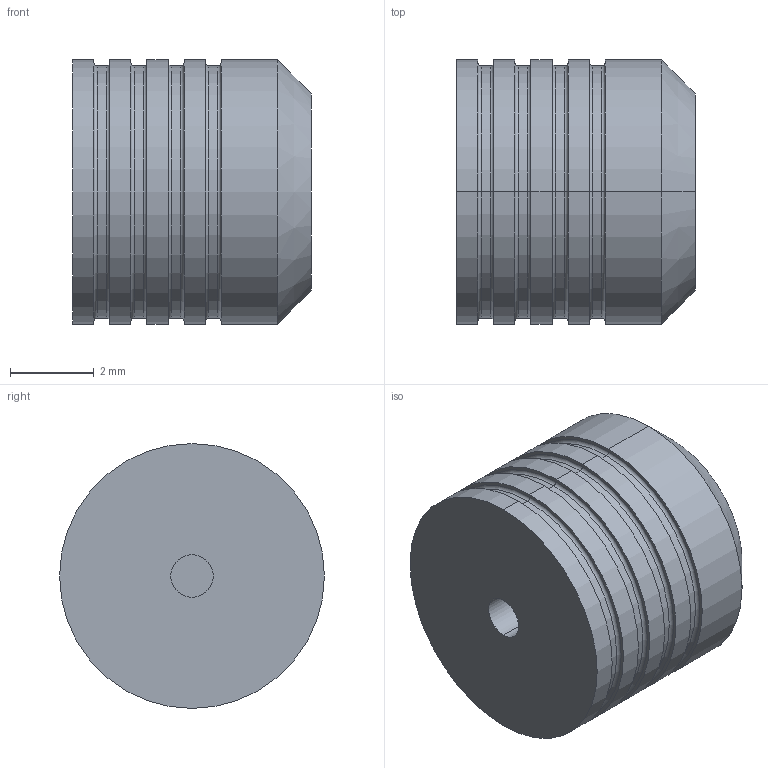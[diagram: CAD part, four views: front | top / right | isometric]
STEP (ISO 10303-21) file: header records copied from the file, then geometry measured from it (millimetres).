
FILE_DESCRIPTION (( 'STEP AP214' ), '1' );
FILE_NAME ('PLGA2500 _ _ 0A.STEP', '2020-02-19T15:48:38', ( 'tlc' ), ( 'Microsoft' ), 'SwSTEP 2.0', 'SolidWorks 2019', '' );
FILE_SCHEMA (( 'AUTOMOTIVE_DESIGN' ));
Length unit declared in the file: inch
Products named in the file (1): PLGA2500 _ _ 0A
Bounding box: 5.71 x 6.34 x 6.34 mm (x, y, z)
Volume: 166.7 mm3; surface area: 196.8 mm2
Topology: 1 solids, 1 shells, 49 faces, 96 edges, 58 vertices
Faces by surface type: cylinder 20, torus 16, plane 11, cone 2
Entity records: 1320 total; most frequent: DIRECTION 270, CARTESIAN_POINT 204, ORIENTED_EDGE 192, AXIS2_PLACEMENT_3D 124, EDGE_CURVE 96, CIRCLE 74, EDGE_LOOP 58, VERTEX_POINT 58
